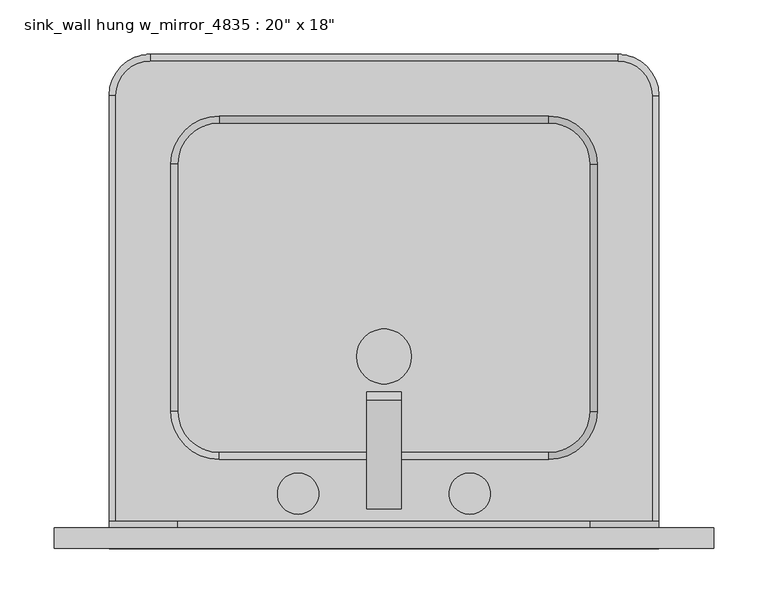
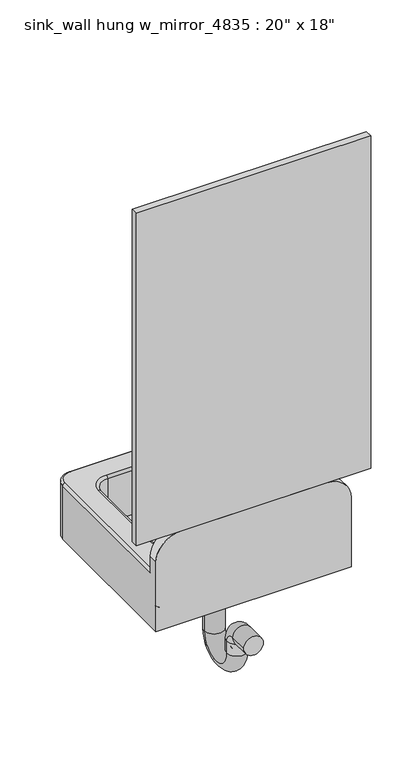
"""IFC4 building model written with IfcOpenShell, lengths in millimetres: flow terminal geometry."""

from ifc_helpers import new_model, si_unit, point, frame, frame_2d, origin, place, context, project, spatial, polyline, circle_curve, ellipse_curve, trimmed, segment, composite_curve, outline, extrude, faceted_brep, source, transform, mapped, element, save
from ifc_brep_helpers import plane_surface, cylinder_surface, revolved_surface, advanced_brep


def flow_terminal_77e50434(model_context):
    return source(origin(), model_context, "Body", "SolidModel", [
        extrude(outline(polyline([(-11.2103038, 80.9625), (598.3896962, 80.9625), (598.3896962, 61.9125), (-11.2103038, 61.9125), (-11.2103038, 80.9625)])), frame((0.0, 0.0, 1016.0), z_axis=(0.0, 0.0, 1.0), x_axis=(1.0, 0.0, 0.0)), (0.0, 0.0, 1.0), 914.4),
        extrude(outline(composite_curve([segment(trimmed(circle_curve(frame_2d((214.2146962, 112.7125)), 19.05), [point((214.2146962, 93.6625))], [point((214.2146962, 131.7625))], False, "CARTESIAN"), True, "CONTINUOUS"), segment(trimmed(circle_curve(frame_2d((214.2146962, 112.7125)), 19.05), [point((214.2146962, 131.7625))], [point((214.2146962, 93.6625))], False, "CARTESIAN"), True, "CONTINUOUS")], self_intersect=False)), frame((0.0, 0.0, 914.4), z_axis=(0.0, 0.0, 1.0), x_axis=(1.0, 0.0, 0.0)), (0.0, 0.0, 1.0), 50.8738142),
        extrude(outline(composite_curve([segment(trimmed(circle_curve(frame_2d((372.8109273, 112.7125)), 19.05), [point((372.8109273, 93.6625))], [point((372.8109273, 131.7625))], False, "CARTESIAN"), True, "CONTINUOUS"), segment(trimmed(circle_curve(frame_2d((372.8109273, 112.7125)), 19.05), [point((372.8109273, 131.7625))], [point((372.8109273, 93.6625))], False, "CARTESIAN"), True, "CONTINUOUS")], self_intersect=False)), frame((0.0, 0.0, 914.4), z_axis=(0.0, 0.0, 1.0), x_axis=(1.0, 0.0, 0.0)), (0.0, 0.0, 1.0), 50.8738142),
        faceted_brep([(309.3109273, 114.795024, 914.4), (309.3109273, 98.920024, 914.4), (277.7146962, 98.920024, 914.4), (277.7146962, 114.795024, 914.4), (309.3109273, 114.795024, 979.979447), (309.3109273, 98.920024, 992.160763), (277.7146962, 98.920024, 992.160763), (277.7146962, 114.795024, 979.979447), (309.3109273, 188.398572, 999.7014583), (309.3109273, 199.6238922, 1019.1442831), (277.7146962, 199.6238922, 1019.1442831), (277.7146962, 188.398572, 999.7014583), (309.3109273, 191.6855739, 987.4342003), (277.7146962, 191.6855739, 987.4342003), (277.7146962, 207.0196464, 991.5429526), (309.3109273, 207.0196464, 991.5429526)], [[[0, 1, 2, 3]], [[1, 0, 4, 5]], [[2, 1, 5, 6]], [[3, 2, 6, 7]], [[0, 3, 7, 4]], [[5, 4, 8, 9]], [[6, 5, 9, 10]], [[7, 6, 10, 11]], [[4, 7, 11, 8]], [[12, 13, 14, 15]], [[9, 8, 12, 15]], [[10, 9, 15, 14]], [[11, 10, 14, 13]], [[8, 11, 13, 12]]]),
        advanced_brep(
        [(318.9896962, 239.7125, 787.4), (268.1896962, 239.7125, 787.4), (318.9896962, 239.7125, 749.3), (268.1896962, 239.7125, 749.3), (318.9896962, 239.7125, 576.4259676), (268.1896962, 239.7125, 576.4259676), (268.1896962, 239.7125, 736.6), (318.9896962, 239.7125, 736.6), (318.9896962, 138.1125, 576.4259676), (268.1896962, 138.1125, 576.4259676), (318.9896962, 138.1125, 608.7608899), (268.1896962, 138.1125, 608.7608899), (318.9896962, 112.7125, 634.1608899), (268.1896962, 112.7125, 634.1608899), (318.9896962, 61.9125, 634.1608899), (268.1896962, 61.9125, 634.1608899), (445.9896962, 442.9125, 749.3), (141.1896962, 442.9125, 749.3), (115.7896962, 417.5125, 749.3), (115.7896962, 188.9125, 749.3), (141.1896962, 163.5125, 749.3), (445.9896962, 163.5125, 749.3), (471.3896962, 188.9125, 749.3), (471.3896962, 417.5125, 749.3), (445.9896962, 442.9125, 736.6), (471.3896962, 417.5125, 736.6), (471.3896962, 188.9125, 736.6), (445.9896962, 163.5125, 736.6), (141.1896962, 163.5125, 736.6), (115.7896962, 188.9125, 736.6), (115.7896962, 417.5125, 736.6), (141.1896962, 442.9125, 736.6)],
        [
            (0, 1, circle_curve(frame((293.5896962, 239.7125, 787.4), z_axis=(0.0, 0.0, 1.0), x_axis=(-1.0, 0.0, 0.0)), 25.4)),
            (1, 0, circle_curve(frame((293.5896962, 239.7125, 787.4), z_axis=(0.0, 0.0, 1.0), x_axis=(-1.0, 0.0, 0.0)), 25.4)),
            (0, 2),
            (2, 3, circle_curve(frame((293.5896962, 239.7125, 749.3), z_axis=(0.0, 0.0, 1.0), x_axis=(-1.0, 0.0, 0.0)), 25.4)),
            (3, 1),
            (4, 5, circle_curve(frame((293.5896962, 239.7125, 576.4259676), z_axis=(0.0, 0.0, 1.0), x_axis=(-1.0, 0.0, 0.0)), 25.4)),
            (5, 6),
            (6, 7, circle_curve(frame((293.5896962, 239.7125, 736.6), z_axis=(0.0, 0.0, -1.0), x_axis=(-1.0, 0.0, 0.0)), 25.4)),
            (7, 4),
            (3, 2, circle_curve(frame((293.5896962, 239.7125, 749.3), z_axis=(0.0, 0.0, 1.0), x_axis=(-1.0, 0.0, 0.0)), 25.4)),
            (5, 4, circle_curve(frame((293.5896962, 239.7125, 576.4259676), z_axis=(0.0, 0.0, 1.0), x_axis=(-1.0, 0.0, 0.0)), 25.4)),
            (7, 6, circle_curve(frame((293.5896962, 239.7125, 736.6), z_axis=(0.0, 0.0, -1.0), x_axis=(-1.0, 0.0, 0.0)), 25.4)),
            (4, 8, circle_curve(frame((318.9896962, 188.9125, 576.4259676), z_axis=(-1.0, 0.0, 0.0), x_axis=(0.0, 1.0, 0.0)), 50.8)),
            (8, 9, circle_curve(frame((293.5896962, 138.1125, 576.4259676), z_axis=(0.0, 0.0, -1.0), x_axis=(-1.0, 0.0, 0.0)), 25.4)),
            (9, 5, circle_curve(frame((268.1896962, 188.9125, 576.4259676), z_axis=(1.0, 0.0, 0.0), x_axis=(0.0, 1.0, 0.0)), 50.8)),
            (9, 8, circle_curve(frame((293.5896962, 138.1125, 576.4259676), z_axis=(0.0, 0.0, -1.0), x_axis=(-1.0, 0.0, 0.0)), 25.4)),
            (8, 10),
            (10, 11, circle_curve(frame((293.5896962, 138.1125, 608.7608899), z_axis=(0.0, 0.0, -1.0), x_axis=(-1.0, 0.0, 0.0)), 25.4)),
            (11, 9),
            (11, 10, circle_curve(frame((293.5896962, 138.1125, 608.7608899), z_axis=(0.0, 0.0, -1.0), x_axis=(-1.0, 0.0, 0.0)), 25.4)),
            (10, 12, circle_curve(frame((318.9896962, 112.7125, 608.7608899), z_axis=(1.0, 0.0, 0.0), x_axis=(0.0, 1.0, 0.0)), 25.4)),
            (12, 13, circle_curve(frame((293.5896962, 112.7125, 634.1608899), z_axis=(0.0, 1.0, 0.0), x_axis=(-1.0, 0.0, 0.0)), 25.4)),
            (13, 11, circle_curve(frame((268.1896962, 112.7125, 608.7608899), z_axis=(-1.0, 0.0, 0.0), x_axis=(0.0, 1.0, 0.0)), 25.4)),
            (13, 12, circle_curve(frame((293.5896962, 112.7125, 634.1608899), z_axis=(0.0, 1.0, 0.0), x_axis=(-1.0, 0.0, 0.0)), 25.4)),
            (14, 15, circle_curve(frame((293.5896962, 61.9125, 634.1608899), z_axis=(0.0, -1.0, 0.0), x_axis=(-1.0, 0.0, 0.0)), 25.4)),
            (15, 14, circle_curve(frame((293.5896962, 61.9125, 634.1608899), z_axis=(0.0, -1.0, 0.0), x_axis=(-1.0, 0.0, 0.0)), 25.4)),
            (12, 14),
            (15, 13),
            (16, 17),
            (17, 18, circle_curve(frame((141.1896962, 417.5125, 749.3), z_axis=(0.0, 0.0, 1.0), x_axis=(1.0, 0.0, 0.0)), 25.4)),
            (18, 19),
            (19, 20, circle_curve(frame((141.1896962, 188.9125, 749.3), z_axis=(0.0, 0.0, 1.0), x_axis=(1.0, 0.0, 0.0)), 25.4)),
            (20, 21),
            (21, 22, circle_curve(frame((445.9896962, 188.9125, 749.3), z_axis=(0.0, 0.0, 1.0), x_axis=(1.0, 0.0, 0.0)), 25.4)),
            (22, 23),
            (23, 16, circle_curve(frame((445.9896962, 417.5125, 749.3), z_axis=(0.0, 0.0, 1.0), x_axis=(1.0, 0.0, 0.0)), 25.4)),
            (24, 25, circle_curve(frame((445.9896962, 417.5125, 736.6), z_axis=(0.0, 0.0, -1.0), x_axis=(1.0, 0.0, 0.0)), 25.4)),
            (25, 26),
            (26, 27, circle_curve(frame((445.9896962, 188.9125, 736.6), z_axis=(0.0, 0.0, -1.0), x_axis=(1.0, 0.0, 0.0)), 25.4)),
            (27, 28),
            (28, 29, circle_curve(frame((141.1896962, 188.9125, 736.6), z_axis=(0.0, 0.0, -1.0), x_axis=(1.0, 0.0, 0.0)), 25.4)),
            (29, 30),
            (30, 31, circle_curve(frame((141.1896962, 417.5125, 736.6), z_axis=(0.0, 0.0, -1.0), x_axis=(1.0, 0.0, 0.0)), 25.4)),
            (31, 24),
            (16, 24),
            (31, 17),
            (30, 18),
            (29, 19),
            (28, 20),
            (27, 21),
            (26, 22),
            (25, 23),
        ],
        [
            plane_surface(frame((293.5896962, 214.3125, 787.4), z_axis=(0.0, 0.0, 1.0), x_axis=(-1.0, 0.0, 0.0))),
            cylinder_surface(frame((293.5896962, 239.7125, 787.4), z_axis=(0.0, 0.0, 1.0), x_axis=(-1.0, 0.0, 0.0)), 25.4),
            revolved_surface(trimmed(ellipse_curve(frame((293.5896962, 239.7125, 576.4259676), z_axis=(0.0, 0.0, 1.0), x_axis=(-1.0, 0.0, 0.0)), 25.4, 25.4), [point((318.9896962, 239.7125, 576.4259676))], [point((268.1896962, 239.7125, 576.4259676))], True, "CARTESIAN"), (293.5896962, 188.9125, 576.4259676), (-1.0, 0.0, 0.0)),
            revolved_surface(trimmed(ellipse_curve(frame((293.5896962, 239.7125, 576.4259676), z_axis=(0.0, 0.0, 1.0), x_axis=(-1.0, 0.0, 0.0)), 25.4, 25.4), [point((268.1896962, 239.7125, 576.4259676))], [point((318.9896962, 239.7125, 576.4259676))], True, "CARTESIAN"), (293.5896962, 188.9125, 576.4259676), (-1.0, 0.0, 0.0)),
            cylinder_surface(frame((293.5896962, 138.1125, 576.4259676), z_axis=(0.0, 0.0, -1.0), x_axis=(-1.0, 0.0, 0.0)), 25.4),
            revolved_surface(trimmed(ellipse_curve(frame((293.5896962, 138.1125, 608.7608899), z_axis=(0.0, 0.0, -1.0), x_axis=(-1.0, 0.0, 0.0)), 25.4, 25.4), [point((318.9896962, 138.1125, 608.7608899))], [point((268.1896962, 138.1125, 608.7608899))], True, "CARTESIAN"), (293.5896962, 112.7125, 608.7608899), (1.0, 0.0, 0.0)),
            revolved_surface(trimmed(ellipse_curve(frame((293.5896962, 138.1125, 608.7608899), z_axis=(0.0, 0.0, -1.0), x_axis=(-1.0, 0.0, 0.0)), 25.4, 25.4), [point((268.1896962, 138.1125, 608.7608899))], [point((318.9896962, 138.1125, 608.7608899))], True, "CARTESIAN"), (293.5896962, 112.7125, 608.7608899), (1.0, 0.0, 0.0)),
            plane_surface(frame((268.1896962, 61.9125, 634.1608899), z_axis=(0.0, -1.0, 0.0), x_axis=(0.0, 0.0, -1.0))),
            cylinder_surface(frame((293.5896962, 112.7125, 634.1608899), z_axis=(0.0, 1.0, 0.0), x_axis=(-1.0, 0.0, 0.0)), 25.4),
            plane_surface(frame((141.1896962, 442.9125, 749.3), z_axis=(0.0, 0.0, 1.0), x_axis=(-1.0, 0.0, 0.0))),
            plane_surface(frame((141.1896962, 442.9125, 736.6), z_axis=(0.0, 0.0, -1.0), x_axis=(1.0, 0.0, 0.0))),
            plane_surface(frame((445.9896962, 442.9125, 749.3), z_axis=(0.0, 1.0, 0.0), x_axis=(0.0, 0.0, -1.0))),
            cylinder_surface(frame((141.1896962, 417.5125, 736.6), z_axis=(0.0, 0.0, 1.0), x_axis=(1.0, 0.0, 0.0)), 25.4),
            plane_surface(frame((115.7896962, 417.5125, 749.3), z_axis=(-1.0, 0.0, 0.0), x_axis=(0.0, 0.0, -1.0))),
            cylinder_surface(frame((141.1896962, 188.9125, 736.6), z_axis=(0.0, 0.0, 1.0), x_axis=(1.0, 0.0, 0.0)), 25.4),
            plane_surface(frame((141.1896962, 163.5125, 749.3), z_axis=(0.0, -1.0, 0.0), x_axis=(0.0, 0.0, -1.0))),
            cylinder_surface(frame((445.9896962, 188.9125, 736.6), z_axis=(0.0, 0.0, 1.0), x_axis=(1.0, 0.0, 0.0)), 25.4),
            plane_surface(frame((471.3896962, 188.9125, 749.3), z_axis=(1.0, 0.0, 0.0), x_axis=(0.0, 0.0, -1.0))),
            cylinder_surface(frame((445.9896962, 417.5125, 736.6), z_axis=(0.0, 0.0, 1.0), x_axis=(1.0, 0.0, 0.0)), 25.4),
        ],
        [
            (0, [[1, 2]]),
            (1, [[-1, 3, 4, 5]]),
            (1, [[6, 7, 8, 9]]),
            (1, [[-2, -5, 10, -3]]),
            (1, [[11, -9, 12, -7]]),
            (2, [[-6, 13, 14, 15]]),
            (3, [[-11, -15, 16, -13]]),
            (4, [[-14, 17, 18, 19]]),
            (4, [[-16, -19, 20, -17]]),
            (5, [[-18, 21, 22, 23]]),
            (6, [[-20, -23, 24, -21]]),
            (7, [[25, 26]]),
            (8, [[-22, 27, -26, 28]]),
            (8, [[-24, -28, -25, -27]]),
            (9, [[29, 30, 31, 32, 33, 34, 35, 36], [-4, -10]]),
            (10, [[37, 38, 39, 40, 41, 42, 43, 44], [-8, -12]]),
            (11, [[-29, 45, -44, 46]]),
            (12, [[-30, -46, -43, 47]]),
            (13, [[-31, -47, -42, 48]]),
            (14, [[-32, -48, -41, 49]]),
            (15, [[-33, -49, -40, 50]]),
            (16, [[-34, -50, -39, 51]]),
            (17, [[-35, -51, -38, 52]]),
            (18, [[-36, -52, -37, -45]]),
        ],
    ),
        advanced_brep(
        [(39.5896962, 61.9125, 762.0), (547.5896962, 61.9125, 762.0), (547.5896962, 61.9125, 952.5), (484.0896962, 61.9125, 1016.0), (103.0896962, 61.9125, 1016.0), (39.5896962, 61.9125, 952.5), (77.6896962, 512.7625, 914.4), (45.9396962, 481.0125, 914.4), (45.9396962, 87.3125, 914.4), (541.2396962, 87.3125, 914.4), (541.2396962, 481.0125, 914.4), (509.4896962, 512.7625, 914.4), (96.7396962, 417.5125, 914.4), (141.1896962, 461.9625, 914.4), (445.9896962, 461.9625, 914.4), (490.4396962, 417.5125, 914.4), (490.4396962, 188.9125, 914.4), (445.9896962, 144.4625, 914.4), (141.1896962, 144.4625, 914.4), (96.7396962, 188.9125, 914.4), (39.5896962, 481.0125, 908.05), (39.5896962, 87.3125, 908.05), (39.5896962, 481.0125, 762.0), (39.5896962, 87.3125, 952.5), (77.6896962, 519.1125, 762.0), (509.4896962, 519.1125, 762.0), (547.5896962, 481.0125, 762.0), (496.7896962, 417.5125, 762.0), (445.9896962, 468.3125, 762.0), (141.1896962, 468.3125, 762.0), (90.3896962, 417.5125, 762.0), (90.3896962, 188.9125, 762.0), (141.1896962, 138.1125, 762.0), (445.9896962, 138.1125, 762.0), (496.7896962, 188.9125, 762.0), (445.9896962, 455.6125, 762.0), (484.0896962, 417.5125, 762.0), (484.0896962, 188.9125, 762.0), (445.9896962, 150.8125, 762.0), (141.1896962, 150.8125, 762.0), (103.0896962, 188.9125, 762.0), (103.0896962, 417.5125, 762.0), (141.1896962, 455.6125, 762.0), (77.6896962, 519.1125, 908.05), (509.4896962, 519.1125, 908.05), (547.5896962, 481.0125, 908.05), (547.5896962, 87.3125, 908.05), (547.5896962, 87.3125, 952.5), (103.0896962, 87.3125, 1016.0), (484.0896962, 87.3125, 1016.0), (484.0896962, 417.5125, 787.4), (445.9896962, 455.6125, 787.4), (141.1896962, 455.6125, 787.4), (103.0896962, 417.5125, 787.4), (103.0896962, 188.9125, 787.4), (141.1896962, 150.8125, 787.4), (445.9896962, 150.8125, 787.4), (484.0896962, 188.9125, 787.4), (471.3896962, 417.5125, 736.6), (445.9896962, 442.9125, 736.6), (471.3896962, 417.5125, 749.3), (445.9896962, 442.9125, 749.3), (484.0896962, 417.5125, 908.05), (445.9896962, 455.6125, 908.05), (471.3896962, 188.9125, 736.6), (471.3896962, 188.9125, 749.3), (484.0896962, 188.9125, 908.05), (445.9896962, 163.5125, 736.6), (445.9896962, 163.5125, 749.3), (445.9896962, 150.8125, 908.05), (141.1896962, 163.5125, 736.6), (141.1896962, 163.5125, 749.3), (141.1896962, 150.8125, 908.05), (115.7896962, 188.9125, 736.6), (115.7896962, 188.9125, 749.3), (103.0896962, 188.9125, 908.05), (115.7896962, 417.5125, 736.6), (115.7896962, 417.5125, 749.3), (103.0896962, 417.5125, 908.05), (141.1896962, 442.9125, 736.6), (141.1896962, 442.9125, 749.3), (141.1896962, 455.6125, 908.05)],
        [
            (0, 1),
            (1, 2),
            (2, 3, circle_curve(frame((484.0896962, 61.9125, 952.5), z_axis=(0.0, -1.0, 0.0), x_axis=(1.0, 0.0, 0.0)), 63.5)),
            (3, 4),
            (4, 5, circle_curve(frame((103.0896962, 61.9125, 952.5), z_axis=(0.0, -1.0, 0.0), x_axis=(1.0, 0.0, 0.0)), 63.5)),
            (5, 0),
            (6, 7, circle_curve(frame((77.6896962, 481.0125, 914.4), z_axis=(0.0, 0.0, 1.0), x_axis=(-1.0, 0.0, 0.0)), 31.75)),
            (7, 8),
            (8, 9),
            (9, 10),
            (10, 11, circle_curve(frame((509.4896962, 481.0125, 914.4), z_axis=(0.0, 0.0, 1.0), x_axis=(0.0, 1.0, 0.0)), 31.75)),
            (11, 6),
            (12, 13, circle_curve(frame((141.1896962, 417.5125, 914.4), z_axis=(0.0, 0.0, -1.0), x_axis=(-1.0, 0.0, 0.0)), 44.45)),
            (13, 14),
            (14, 15, circle_curve(frame((445.9896962, 417.5125, 914.4), z_axis=(0.0, 0.0, -1.0), x_axis=(0.0, 1.0, 0.0)), 44.45)),
            (15, 16),
            (16, 17, circle_curve(frame((445.9896962, 188.9125, 914.4), z_axis=(0.0, 0.0, -1.0), x_axis=(1.0, 0.0, 0.0)), 44.45)),
            (17, 18),
            (18, 19, circle_curve(frame((141.1896962, 188.9125, 914.4), z_axis=(0.0, 0.0, -1.0), x_axis=(0.0, -1.0, 0.0)), 44.45)),
            (19, 12),
            (7, 20, circle_curve(frame((45.9396962, 481.0125, 908.05), z_axis=(0.0, -1.0, 0.0), x_axis=(-1.0, 0.0, 0.0)), 6.35)),
            (20, 21),
            (21, 8, circle_curve(frame((45.9396962, 87.3125, 908.05), z_axis=(0.0, 1.0, 0.0), x_axis=(-1.0, 0.0, 0.0)), 6.35)),
            (20, 22),
            (22, 0),
            (5, 23),
            (23, 21),
            (22, 24, circle_curve(frame((77.6896962, 481.0125, 762.0), z_axis=(0.0, 0.0, -1.0), x_axis=(-1.0, 0.0, 0.0)), 38.1)),
            (24, 25),
            (25, 26, circle_curve(frame((509.4896962, 481.0125, 762.0), z_axis=(0.0, 0.0, -1.0), x_axis=(0.0, 1.0, 0.0)), 38.1)),
            (26, 1),
            (27, 28, circle_curve(frame((445.9896962, 417.5125, 762.0), z_axis=(0.0, 0.0, 1.0), x_axis=(0.0, 1.0, 0.0)), 50.8)),
            (28, 29),
            (29, 30, circle_curve(frame((141.1896962, 417.5125, 762.0), z_axis=(0.0, 0.0, 1.0), x_axis=(-1.0, 0.0, 0.0)), 50.8)),
            (30, 31),
            (31, 32, circle_curve(frame((141.1896962, 188.9125, 762.0), z_axis=(0.0, 0.0, 1.0), x_axis=(0.0, -1.0, 0.0)), 50.8)),
            (32, 33),
            (33, 34, circle_curve(frame((445.9896962, 188.9125, 762.0), z_axis=(0.0, 0.0, 1.0), x_axis=(1.0, 0.0, 0.0)), 50.8)),
            (34, 27),
            (35, 36, circle_curve(frame((445.9896962, 417.5125, 762.0), z_axis=(0.0, 0.0, -1.0), x_axis=(0.0, 1.0, 0.0)), 38.1)),
            (36, 37),
            (37, 38, circle_curve(frame((445.9896962, 188.9125, 762.0), z_axis=(0.0, 0.0, -1.0), x_axis=(1.0, 0.0, 0.0)), 38.1)),
            (38, 39),
            (39, 40, circle_curve(frame((141.1896962, 188.9125, 762.0), z_axis=(0.0, 0.0, -1.0), x_axis=(0.0, -1.0, 0.0)), 38.1)),
            (40, 41),
            (41, 42, circle_curve(frame((141.1896962, 417.5125, 762.0), z_axis=(0.0, 0.0, -1.0), x_axis=(-1.0, 0.0, 0.0)), 38.1)),
            (42, 35),
            (6, 43, circle_curve(frame((77.6896962, 512.7625, 908.05), z_axis=(-1.0, 0.0, 0.0), x_axis=(0.0, 1.0, 0.0)), 6.35)),
            (43, 20, circle_curve(frame((77.6896962, 481.0125, 908.05), z_axis=(0.0, 0.0, 1.0), x_axis=(-1.0, 0.0, 0.0)), 38.1)),
            (43, 24),
            (11, 44, circle_curve(frame((509.4896962, 512.7625, 908.05), z_axis=(-1.0, 0.0, 0.0), x_axis=(0.0, 1.0, 0.0)), 6.35)),
            (44, 43),
            (44, 25),
            (10, 45, circle_curve(frame((541.2396962, 481.0125, 908.05), z_axis=(0.0, 1.0, 0.0), x_axis=(1.0, 0.0, 0.0)), 6.35)),
            (45, 44, circle_curve(frame((509.4896962, 481.0125, 908.05), z_axis=(0.0, 0.0, 1.0), x_axis=(0.0, 1.0, 0.0)), 38.1)),
            (45, 26),
            (9, 46, circle_curve(frame((541.2396962, 87.3125, 908.05), z_axis=(0.0, 1.0, 0.0), x_axis=(1.0, 0.0, 0.0)), 6.35)),
            (46, 45),
            (46, 47),
            (47, 2),
            (23, 48, circle_curve(frame((103.0896962, 87.3125, 952.5), z_axis=(0.0, 1.0, 0.0), x_axis=(1.0, 0.0, 0.0)), 63.5)),
            (48, 49),
            (49, 47, circle_curve(frame((484.0896962, 87.3125, 952.5), z_axis=(0.0, 1.0, 0.0), x_axis=(1.0, 0.0, 0.0)), 63.5)),
            (49, 3),
            (48, 4),
            (50, 51, circle_curve(frame((445.9896962, 417.5125, 787.4), z_axis=(0.0, 0.0, 1.0), x_axis=(0.0, 1.0, 0.0)), 38.1)),
            (51, 52),
            (52, 53, circle_curve(frame((141.1896962, 417.5125, 787.4), z_axis=(0.0, 0.0, 1.0), x_axis=(-1.0, 0.0, 0.0)), 38.1)),
            (53, 54),
            (54, 55, circle_curve(frame((141.1896962, 188.9125, 787.4), z_axis=(0.0, 0.0, 1.0), x_axis=(0.0, -1.0, 0.0)), 38.1)),
            (55, 56),
            (56, 57, circle_curve(frame((445.9896962, 188.9125, 787.4), z_axis=(0.0, 0.0, 1.0), x_axis=(1.0, 0.0, 0.0)), 38.1)),
            (57, 50),
            (58, 59, circle_curve(frame((445.9896962, 417.5125, 736.6), z_axis=(0.0, 0.0, 1.0), x_axis=(0.0, 1.0, 0.0)), 25.4)),
            (59, 28, circle_curve(frame((445.9896962, 442.9125, 762.0), z_axis=(1.0, 0.0, 0.0), x_axis=(0.0, 1.0, 0.0)), 25.4)),
            (27, 58, circle_curve(frame((471.3896962, 417.5125, 762.0), z_axis=(0.0, 1.0, 0.0), x_axis=(1.0, 0.0, 0.0)), 25.4)),
            (58, 60),
            (60, 61, circle_curve(frame((445.9896962, 417.5125, 749.3), z_axis=(0.0, 0.0, 1.0), x_axis=(0.0, 1.0, 0.0)), 25.4)),
            (61, 59),
            (60, 36, circle_curve(frame((471.3896962, 417.5125, 762.0), z_axis=(0.0, -1.0, 0.0), x_axis=(1.0, 0.0, 0.0)), 12.7)),
            (35, 61, circle_curve(frame((445.9896962, 442.9125, 762.0), z_axis=(-1.0, 0.0, 0.0), x_axis=(0.0, 1.0, 0.0)), 12.7)),
            (62, 63, circle_curve(frame((445.9896962, 417.5125, 908.05), z_axis=(0.0, 0.0, 1.0), x_axis=(0.0, 1.0, 0.0)), 38.1)),
            (63, 51),
            (50, 62),
            (14, 63, circle_curve(frame((445.9896962, 461.9625, 908.05), z_axis=(1.0, 0.0, 0.0), x_axis=(0.0, 1.0, 0.0)), 6.35)),
            (62, 15, circle_curve(frame((490.4396962, 417.5125, 908.05), z_axis=(0.0, 1.0, 0.0), x_axis=(1.0, 0.0, 0.0)), 6.35)),
            (34, 64, circle_curve(frame((471.3896962, 188.9125, 762.0), z_axis=(0.0, 1.0, 0.0), x_axis=(1.0, 0.0, 0.0)), 25.4)),
            (64, 58),
            (64, 65),
            (65, 60),
            (65, 37, circle_curve(frame((471.3896962, 188.9125, 762.0), z_axis=(0.0, -1.0, 0.0), x_axis=(1.0, 0.0, 0.0)), 12.7)),
            (66, 62),
            (57, 66),
            (66, 16, circle_curve(frame((490.4396962, 188.9125, 908.05), z_axis=(0.0, 1.0, 0.0), x_axis=(1.0, 0.0, 0.0)), 6.35)),
            (33, 67, circle_curve(frame((445.9896962, 163.5125, 762.0), z_axis=(1.0, 0.0, 0.0), x_axis=(0.0, -1.0, 0.0)), 25.4)),
            (67, 64, circle_curve(frame((445.9896962, 188.9125, 736.6), z_axis=(0.0, 0.0, 1.0), x_axis=(1.0, 0.0, 0.0)), 25.4)),
            (67, 68),
            (68, 65, circle_curve(frame((445.9896962, 188.9125, 749.3), z_axis=(0.0, 0.0, 1.0), x_axis=(1.0, 0.0, 0.0)), 25.4)),
            (68, 38, circle_curve(frame((445.9896962, 163.5125, 762.0), z_axis=(-1.0, 0.0, 0.0), x_axis=(0.0, -1.0, 0.0)), 12.7)),
            (69, 66, circle_curve(frame((445.9896962, 188.9125, 908.05), z_axis=(0.0, 0.0, 1.0), x_axis=(1.0, 0.0, 0.0)), 38.1)),
            (56, 69),
            (69, 17, circle_curve(frame((445.9896962, 144.4625, 908.05), z_axis=(1.0, 0.0, 0.0), x_axis=(0.0, -1.0, 0.0)), 6.35)),
            (32, 70, circle_curve(frame((141.1896962, 163.5125, 762.0), z_axis=(1.0, 0.0, 0.0), x_axis=(0.0, -1.0, 0.0)), 25.4)),
            (70, 67),
            (70, 71),
            (71, 68),
            (71, 39, circle_curve(frame((141.1896962, 163.5125, 762.0), z_axis=(-1.0, 0.0, 0.0), x_axis=(0.0, -1.0, 0.0)), 12.7)),
            (72, 69),
            (55, 72),
            (72, 18, circle_curve(frame((141.1896962, 144.4625, 908.05), z_axis=(1.0, 0.0, 0.0), x_axis=(0.0, -1.0, 0.0)), 6.35)),
            (31, 73, circle_curve(frame((115.7896962, 188.9125, 762.0), z_axis=(0.0, -1.0, 0.0), x_axis=(-1.0, 0.0, 0.0)), 25.4)),
            (73, 70, circle_curve(frame((141.1896962, 188.9125, 736.6), z_axis=(0.0, 0.0, 1.0), x_axis=(0.0, -1.0, 0.0)), 25.4)),
            (73, 74),
            (74, 71, circle_curve(frame((141.1896962, 188.9125, 749.3), z_axis=(0.0, 0.0, 1.0), x_axis=(0.0, -1.0, 0.0)), 25.4)),
            (74, 40, circle_curve(frame((115.7896962, 188.9125, 762.0), z_axis=(0.0, 1.0, 0.0), x_axis=(-1.0, 0.0, 0.0)), 12.7)),
            (75, 72, circle_curve(frame((141.1896962, 188.9125, 908.05), z_axis=(0.0, 0.0, 1.0), x_axis=(0.0, -1.0, 0.0)), 38.1)),
            (54, 75),
            (75, 19, circle_curve(frame((96.7396962, 188.9125, 908.05), z_axis=(0.0, -1.0, 0.0), x_axis=(-1.0, 0.0, 0.0)), 6.35)),
            (30, 76, circle_curve(frame((115.7896962, 417.5125, 762.0), z_axis=(0.0, -1.0, 0.0), x_axis=(-1.0, 0.0, 0.0)), 25.4)),
            (76, 73),
            (76, 77),
            (77, 74),
            (77, 41, circle_curve(frame((115.7896962, 417.5125, 762.0), z_axis=(0.0, 1.0, 0.0), x_axis=(-1.0, 0.0, 0.0)), 12.7)),
            (78, 75),
            (53, 78),
            (78, 12, circle_curve(frame((96.7396962, 417.5125, 908.05), z_axis=(0.0, -1.0, 0.0), x_axis=(-1.0, 0.0, 0.0)), 6.35)),
            (29, 79, circle_curve(frame((141.1896962, 442.9125, 762.0), z_axis=(-1.0, 0.0, 0.0), x_axis=(0.0, 1.0, 0.0)), 25.4)),
            (79, 76, circle_curve(frame((141.1896962, 417.5125, 736.6), z_axis=(0.0, 0.0, 1.0), x_axis=(-1.0, 0.0, 0.0)), 25.4)),
            (79, 80),
            (80, 77, circle_curve(frame((141.1896962, 417.5125, 749.3), z_axis=(0.0, 0.0, 1.0), x_axis=(-1.0, 0.0, 0.0)), 25.4)),
            (80, 42, circle_curve(frame((141.1896962, 442.9125, 762.0), z_axis=(1.0, 0.0, 0.0), x_axis=(0.0, 1.0, 0.0)), 12.7)),
            (81, 78, circle_curve(frame((141.1896962, 417.5125, 908.05), z_axis=(0.0, 0.0, 1.0), x_axis=(-1.0, 0.0, 0.0)), 38.1)),
            (52, 81),
            (81, 13, circle_curve(frame((141.1896962, 461.9625, 908.05), z_axis=(-1.0, 0.0, 0.0), x_axis=(0.0, 1.0, 0.0)), 6.35)),
            (59, 79),
            (61, 80),
            (63, 81),
        ],
        [
            plane_surface(frame((-100.638555, 61.9125, 914.4), z_axis=(0.0, -1.0, 0.0), x_axis=(0.0, 0.0, 1.0))),
            plane_surface(frame((52.2896962, 61.9125, 914.4), z_axis=(0.0, 0.0, 1.0), x_axis=(0.0, 1.0, 0.0))),
            cylinder_surface(frame((45.9396962, 61.9125, 908.05), z_axis=(0.0, -1.0, 0.0), x_axis=(-1.0, 0.0, 0.0)), 6.35),
            plane_surface(frame((39.5896962, 61.9125, 908.05), z_axis=(-1.0, 0.0, 0.0), x_axis=(0.0, 1.0, 0.0))),
            plane_surface(frame((39.5896962, 61.9125, 762.0), z_axis=(0.0, 0.0, -1.0), x_axis=(0.0, 1.0, 0.0))),
            revolved_surface(trimmed(ellipse_curve(frame((45.9396962, 481.0125, 908.05), z_axis=(0.0, -1.0, 0.0), x_axis=(-1.0, 0.0, 0.0)), 6.35, 6.35), [point((45.9396962, 481.0125, 914.4))], [point((39.5896962, 481.0125, 908.05))], True, "CARTESIAN"), (77.6896962, 481.0125, 914.4), (0.0, 0.0, -1.0)),
            cylinder_surface(frame((77.6896962, 481.0125, 914.4), z_axis=(0.0, 0.0, -1.0), x_axis=(-1.0, 0.0, 0.0)), 38.1),
            cylinder_surface(frame((77.6896962, 512.7625, 908.05), z_axis=(-1.0, 0.0, 0.0), x_axis=(0.0, 1.0, 0.0)), 6.35),
            plane_surface(frame((77.6896962, 519.1125, 908.05), z_axis=(0.0, 1.0, 0.0), x_axis=(1.0, 0.0, 0.0))),
            revolved_surface(trimmed(ellipse_curve(frame((509.4896962, 512.7625, 908.05), z_axis=(-1.0, 0.0, 0.0), x_axis=(0.0, 1.0, 0.0)), 6.35, 6.35), [point((509.4896962, 512.7625, 914.4))], [point((509.4896962, 519.1125, 908.05))], True, "CARTESIAN"), (509.4896962, 481.0125, 914.4), (0.0, 0.0, -1.0)),
            cylinder_surface(frame((509.4896962, 481.0125, 914.4), z_axis=(0.0, 0.0, -1.0), x_axis=(0.0, 1.0, 0.0)), 38.1),
            cylinder_surface(frame((541.2396962, 481.0125, 908.05), z_axis=(0.0, 1.0, 0.0), x_axis=(1.0, 0.0, 0.0)), 6.35),
            plane_surface(frame((547.5896962, 481.0125, 908.05), z_axis=(1.0, 0.0, 0.0), x_axis=(0.0, -1.0, 0.0))),
            plane_surface(frame((547.5896962, 87.3125, 762.0), z_axis=(0.0, 1.0, 0.0), x_axis=(-1.0, 0.0, 0.0))),
            cylinder_surface(frame((484.0896962, 87.3125, 952.5), z_axis=(0.0, -1.0, 0.0), x_axis=(1.0, 0.0, 0.0)), 63.5),
            plane_surface(frame((484.0896962, 61.9125, 1016.0), z_axis=(0.0, 0.0, 1.0), x_axis=(0.0, 1.0, 0.0))),
            cylinder_surface(frame((103.0896962, 87.3125, 952.5), z_axis=(0.0, -1.0, 0.0), x_axis=(1.0, 0.0, 0.0)), 63.5),
            plane_surface(frame((141.1896962, 468.3125, 787.4), z_axis=(0.0, 0.0, 1.0), x_axis=(1.0, 0.0, 0.0))),
            revolved_surface(trimmed(ellipse_curve(frame((445.9896962, 442.9125, 762.0), z_axis=(-1.0, 0.0, 0.0), x_axis=(0.0, 1.0, 0.0)), 25.4, 25.4), [point((445.9896962, 468.3125, 762.0))], [point((445.9896962, 442.9125, 736.6))], True, "CARTESIAN"), (445.9896962, 417.5125, 914.4), (0.0, 0.0, -1.0)),
            revolved_surface(polyline([(445.9896962, 442.91249999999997, 736.6), (445.9896962, 442.91249999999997, 749.3)]), (445.9896962, 417.5125, 914.4), (0.0, 0.0, -1.0)),
            revolved_surface(trimmed(ellipse_curve(frame((445.9896962, 442.9125, 762.0), z_axis=(1.0, 0.0, 0.0), x_axis=(0.0, 1.0, 0.0)), 12.7, 12.7), [point((445.9896962, 442.9125, 749.3))], [point((445.9896962, 455.6125, 762.0))], True, "CARTESIAN"), (445.9896962, 417.5125, 914.4), (0.0, 0.0, -1.0)),
            revolved_surface(polyline([(445.9896962, 455.6125, 787.4), (445.9896962, 455.6125, 908.05)]), (445.9896962, 417.5125, 914.4), (0.0, 0.0, -1.0)),
            revolved_surface(trimmed(ellipse_curve(frame((445.9896962, 461.9625, 908.05), z_axis=(-1.0, 0.0, 0.0), x_axis=(0.0, 1.0, 0.0)), 6.35, 6.35), [point((445.9896962, 455.6125, 908.05))], [point((445.9896962, 461.9625, 914.4))], True, "CARTESIAN"), (445.9896962, 417.5125, 914.4), (0.0, 0.0, -1.0)),
            cylinder_surface(frame((471.3896962, 417.5125, 762.0), z_axis=(0.0, 1.0, 0.0), x_axis=(1.0, 0.0, 0.0)), 25.4),
            plane_surface(frame((471.3896962, 417.5125, 736.6), z_axis=(-1.0, 0.0, 0.0), x_axis=(0.0, -1.0, 0.0))),
            revolved_surface(polyline([(484.0896962, 188.9125, 762.0), (484.0896962, 417.5125, 762.0)]), (471.3896962, 417.5125, 762.0), (0.0, -1.0, 0.0)),
            plane_surface(frame((484.0896962, 417.5125, 762.0), z_axis=(-1.0, 0.0, 0.0), x_axis=(0.0, -1.0, 0.0))),
            cylinder_surface(frame((490.4396962, 417.5125, 908.05), z_axis=(0.0, 1.0, 0.0), x_axis=(1.0, 0.0, 0.0)), 6.35),
            revolved_surface(trimmed(ellipse_curve(frame((471.3896962, 188.9125, 762.0), z_axis=(0.0, 1.0, 0.0), x_axis=(1.0, 0.0, 0.0)), 25.4, 25.4), [point((496.7896962, 188.9125, 762.0))], [point((471.3896962, 188.9125, 736.6))], True, "CARTESIAN"), (445.9896962, 188.9125, 914.4), (0.0, 0.0, -1.0)),
            revolved_surface(polyline([(471.3896962, 188.9125, 736.6), (471.3896962, 188.9125, 749.3)]), (445.9896962, 188.9125, 914.4), (0.0, 0.0, -1.0)),
            revolved_surface(trimmed(ellipse_curve(frame((471.3896962, 188.9125, 762.0), z_axis=(0.0, -1.0, 0.0), x_axis=(1.0, 0.0, 0.0)), 12.7, 12.7), [point((471.3896962, 188.9125, 749.3))], [point((484.0896962, 188.9125, 762.0))], True, "CARTESIAN"), (445.9896962, 188.9125, 914.4), (0.0, 0.0, -1.0)),
            revolved_surface(polyline([(484.08969620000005, 188.9125, 787.4), (484.08969620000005, 188.9125, 908.05)]), (445.9896962, 188.9125, 914.4), (0.0, 0.0, -1.0)),
            revolved_surface(trimmed(ellipse_curve(frame((490.4396962, 188.9125, 908.05), z_axis=(0.0, 1.0, 0.0), x_axis=(1.0, 0.0, 0.0)), 6.35, 6.35), [point((484.0896962, 188.9125, 908.05))], [point((490.4396962, 188.9125, 914.4))], True, "CARTESIAN"), (445.9896962, 188.9125, 914.4), (0.0, 0.0, -1.0)),
            cylinder_surface(frame((445.9896962, 163.5125, 762.0), z_axis=(1.0, 0.0, 0.0), x_axis=(0.0, -1.0, 0.0)), 25.4),
            plane_surface(frame((445.9896962, 163.5125, 736.6), z_axis=(0.0, 1.0, 0.0), x_axis=(-1.0, 0.0, 0.0))),
            revolved_surface(polyline([(141.18969619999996, 150.8125, 762.0), (445.9896962, 150.8125, 762.0)]), (445.9896962, 163.5125, 762.0), (-1.0, 0.0, 0.0)),
            plane_surface(frame((445.9896962, 150.8125, 762.0), z_axis=(0.0, 1.0, 0.0), x_axis=(-1.0, 0.0, 0.0))),
            cylinder_surface(frame((445.9896962, 144.4625, 908.05), z_axis=(1.0, 0.0, 0.0), x_axis=(0.0, -1.0, 0.0)), 6.35),
            revolved_surface(trimmed(ellipse_curve(frame((141.1896962, 163.5125, 762.0), z_axis=(1.0, 0.0, 0.0), x_axis=(0.0, -1.0, 0.0)), 25.4, 25.4), [point((141.1896962, 138.1125, 762.0))], [point((141.1896962, 163.5125, 736.6))], True, "CARTESIAN"), (141.1896962, 188.9125, 914.4), (0.0, 0.0, -1.0)),
            revolved_surface(polyline([(141.1896962, 163.5125, 736.6), (141.1896962, 163.5125, 749.3)]), (141.1896962, 188.9125, 914.4), (0.0, 0.0, -1.0)),
            revolved_surface(trimmed(ellipse_curve(frame((141.1896962, 163.5125, 762.0), z_axis=(-1.0, 0.0, 0.0), x_axis=(0.0, -1.0, 0.0)), 12.7, 12.7), [point((141.1896962, 163.5125, 749.3))], [point((141.1896962, 150.8125, 762.0))], True, "CARTESIAN"), (141.1896962, 188.9125, 914.4), (0.0, 0.0, -1.0)),
            revolved_surface(polyline([(141.1896962, 150.8125, 787.4), (141.1896962, 150.8125, 908.05)]), (141.1896962, 188.9125, 914.4), (0.0, 0.0, -1.0)),
            revolved_surface(trimmed(ellipse_curve(frame((141.1896962, 144.4625, 908.05), z_axis=(1.0, 0.0, 0.0), x_axis=(0.0, -1.0, 0.0)), 6.35, 6.35), [point((141.1896962, 150.8125, 908.05))], [point((141.1896962, 144.4625, 914.4))], True, "CARTESIAN"), (141.1896962, 188.9125, 914.4), (0.0, 0.0, -1.0)),
            cylinder_surface(frame((115.7896962, 188.9125, 762.0), z_axis=(0.0, -1.0, 0.0), x_axis=(-1.0, 0.0, 0.0)), 25.4),
            plane_surface(frame((115.7896962, 188.9125, 736.6), z_axis=(1.0, 0.0, 0.0), x_axis=(0.0, 1.0, 0.0))),
            revolved_surface(polyline([(103.08969619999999, 417.5125, 762.0), (103.08969619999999, 188.9125, 762.0)]), (115.7896962, 188.9125, 762.0), (0.0, 1.0, 0.0)),
            plane_surface(frame((103.0896962, 188.9125, 762.0), z_axis=(1.0, 0.0, 0.0), x_axis=(0.0, 1.0, 0.0))),
            cylinder_surface(frame((96.7396962, 188.9125, 908.05), z_axis=(0.0, -1.0, 0.0), x_axis=(-1.0, 0.0, 0.0)), 6.35),
            revolved_surface(trimmed(ellipse_curve(frame((115.7896962, 417.5125, 762.0), z_axis=(0.0, -1.0, 0.0), x_axis=(-1.0, 0.0, 0.0)), 25.4, 25.4), [point((90.3896962, 417.5125, 762.0))], [point((115.7896962, 417.5125, 736.6))], True, "CARTESIAN"), (141.1896962, 417.5125, 914.4), (0.0, 0.0, -1.0)),
            revolved_surface(polyline([(115.78969619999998, 417.5125, 736.6), (115.78969619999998, 417.5125, 749.3)]), (141.1896962, 417.5125, 914.4), (0.0, 0.0, -1.0)),
            revolved_surface(trimmed(ellipse_curve(frame((115.7896962, 417.5125, 762.0), z_axis=(0.0, 1.0, 0.0), x_axis=(-1.0, 0.0, 0.0)), 12.7, 12.7), [point((115.7896962, 417.5125, 749.3))], [point((103.0896962, 417.5125, 762.0))], True, "CARTESIAN"), (141.1896962, 417.5125, 914.4), (0.0, 0.0, -1.0)),
            revolved_surface(polyline([(103.08969619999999, 417.5125, 787.4), (103.08969619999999, 417.5125, 908.05)]), (141.1896962, 417.5125, 914.4), (0.0, 0.0, -1.0)),
            revolved_surface(trimmed(ellipse_curve(frame((96.7396962, 417.5125, 908.05), z_axis=(0.0, -1.0, 0.0), x_axis=(-1.0, 0.0, 0.0)), 6.35, 6.35), [point((103.0896962, 417.5125, 908.05))], [point((96.7396962, 417.5125, 914.4))], True, "CARTESIAN"), (141.1896962, 417.5125, 914.4), (0.0, 0.0, -1.0)),
            cylinder_surface(frame((141.1896962, 442.9125, 762.0), z_axis=(-1.0, 0.0, 0.0), x_axis=(0.0, 1.0, 0.0)), 25.4),
            plane_surface(frame((141.1896962, 442.9125, 736.6), z_axis=(0.0, -1.0, 0.0), x_axis=(1.0, 0.0, 0.0))),
            revolved_surface(polyline([(445.9896962, 455.6125, 762.0), (141.1896962, 455.6125, 762.0)]), (141.1896962, 442.9125, 762.0), (1.0, 0.0, 0.0)),
            plane_surface(frame((141.1896962, 455.6125, 762.0), z_axis=(0.0, -1.0, 0.0), x_axis=(1.0, 0.0, 0.0))),
            cylinder_surface(frame((141.1896962, 461.9625, 908.05), z_axis=(-1.0, 0.0, 0.0), x_axis=(0.0, 1.0, 0.0)), 6.35),
        ],
        [
            (0, [[1, 2, 3, 4, 5, 6]]),
            (1, [[7, 8, 9, 10, 11, 12], [13, 14, 15, 16, 17, 18, 19, 20]]),
            (2, [[21, 22, 23, -8]]),
            (3, [[24, 25, -6, 26, 27, -22]]),
            (4, [[28, 29, 30, 31, -1, -25], [32, 33, 34, 35, 36, 37, 38, 39]]),
            (4, [[40, 41, 42, 43, 44, 45, 46, 47]]),
            (5, [[-21, -7, 48, 49]]),
            (6, [[-24, -49, 50, -28]]),
            (7, [[-48, -12, 51, 52]]),
            (8, [[-50, -52, 53, -29]]),
            (9, [[-51, -11, 54, 55]]),
            (10, [[-53, -55, 56, -30]]),
            (11, [[-54, -10, 57, 58]]),
            (12, [[-56, -58, 59, 60, -2, -31]]),
            (13, [[61, 62, 63, -59, -57, -9, -23, -27]]),
            (14, [[-3, -60, -63, 64]]),
            (15, [[-4, -64, -62, 65]]),
            (16, [[-5, -65, -61, -26]]),
            (17, [[66, 67, 68, 69, 70, 71, 72, 73]]),
            (18, [[74, 75, -32, 76]]),
            (19, [[-74, 77, 78, 79]]),
            (20, [[-78, 80, -40, 81]]),
            (21, [[82, 83, -66, 84]]),
            (22, [[-15, 85, -82, 86]]),
            (23, [[-76, -39, 87, 88]]),
            (24, [[-77, -88, 89, 90]]),
            (25, [[-80, -90, 91, -41]]),
            (26, [[92, -84, -73, 93]]),
            (27, [[-86, -92, 94, -16]]),
            (28, [[-87, -38, 95, 96]]),
            (29, [[-89, -96, 97, 98]]),
            (30, [[-91, -98, 99, -42]]),
            (31, [[100, -93, -72, 101]]),
            (32, [[-94, -100, 102, -17]]),
            (33, [[-95, -37, 103, 104]]),
            (34, [[-97, -104, 105, 106]]),
            (35, [[-99, -106, 107, -43]]),
            (36, [[108, -101, -71, 109]]),
            (37, [[-102, -108, 110, -18]]),
            (38, [[-103, -36, 111, 112]]),
            (39, [[-105, -112, 113, 114]]),
            (40, [[-107, -114, 115, -44]]),
            (41, [[116, -109, -70, 117]]),
            (42, [[-110, -116, 118, -19]]),
            (43, [[-111, -35, 119, 120]]),
            (44, [[-113, -120, 121, 122]]),
            (45, [[-115, -122, 123, -45]]),
            (46, [[124, -117, -69, 125]]),
            (47, [[-118, -124, 126, -20]]),
            (48, [[-119, -34, 127, 128]]),
            (49, [[-121, -128, 129, 130]]),
            (50, [[-123, -130, 131, -46]]),
            (51, [[132, -125, -68, 133]]),
            (52, [[-126, -132, 134, -13]]),
            (53, [[-75, 135, -127, -33]]),
            (54, [[-79, 136, -129, -135]]),
            (55, [[-81, -47, -131, -136]]),
            (56, [[137, -133, -67, -83]]),
            (57, [[-85, -14, -134, -137]]),
        ],
    ),
    ])


if __name__ == "__main__":
    model = new_model("IFC4")
    model_context = context("Model", 3, world=origin())
    ifc_project = project(units=[si_unit("LENGTHUNIT", "METRE", prefix="MILLI")], contexts=[model_context])
    site = spatial("IfcSite", under=ifc_project)
    building = spatial("IfcBuilding", under=site)
    placement = place(None, origin())
    flow_terminal_shape = flow_terminal_77e50434(model_context)
    element("IfcFlowTerminal", 1, ObjectType="sink_wall hung w_mirror_4835 : 20\" x 18\"", at=placement, inside=building, context=model_context, shape_type="MappedRepresentation", body=[
        mapped(flow_terminal_shape, transform((0.0, 0.0, 0.0), x_axis=(1.0, 0.0, 0.0), y_axis=(0.0, 1.0, 0.0), z_axis=(0.0, 0.0, 1.0))),
    ])
    save(model, "model.ifc")
